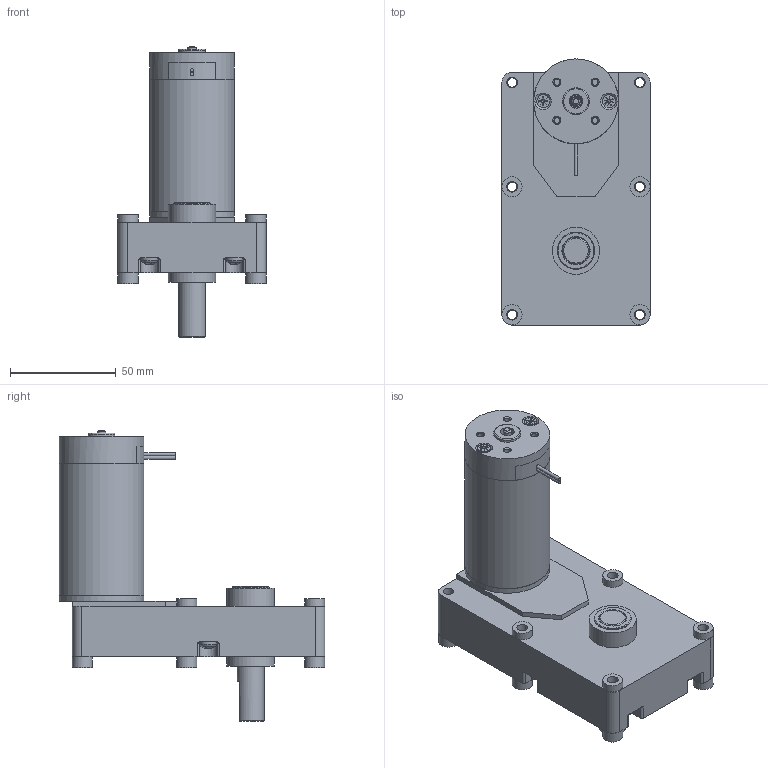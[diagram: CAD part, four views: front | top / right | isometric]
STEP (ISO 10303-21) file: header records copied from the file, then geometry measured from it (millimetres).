
FILE_DESCRIPTION((''),'2;1');
FILE_NAME('D:\업무 관련\2. DC\홈페이지 링크용 도면\3D\SG\SG46BL.stp','2015-04-04T09:19:28',('leejy'),(''),'Autodesk Inventor 2013','Autodesk Inventor 2013','');
FILE_SCHEMA(('AUTOMOTIVE_DESIGN { 1 0 10303 214 1 1 1 1 }'));
Length unit declared in the file: millimetre
Products named in the file (10): SG46BL; SG2 SERIES BOX; RM46ㅁBL; RM4TYPE_FRONT_HOUSING_; RM4TYPE_PIPE_HOUSING_pi40XL62.4; RM46TYPE_SHAFT; AS 1427 Z - 미터 M3.5 x 5; REAR_HOUSING__ASS'Y_LEAD; RM4TYPE_BRUSH_BRAKET_LEAD; RM4TYPE_REAR_HOUSING
Assembly tree (9 placements, depth 3):
  SG46BL
    SG2 SERIES BOX
    RM46ㅁBL
      RM4TYPE_FRONT_HOUSING_
      RM4TYPE_PIPE_HOUSING_pi40XL62.4
      RM46TYPE_SHAFT
      AS 1427 Z - 미터 M3.5 x 5  x2
  REAR_HOUSING__ASS'Y_LEAD
    RM4TYPE_BRUSH_BRAKET_LEAD
    RM4TYPE_REAR_HOUSING
Bounding box: 69.85 x 125.41 x 137.28 mm (x, y, z)
Volume: 126000.1 mm3; surface area: 80077.1 mm2
Topology: 10 solids, 10 shells, 529 faces, 1374 edges, 885 vertices
Faces by surface type: plane 207, cylinder 129, cone 127, torus 60, sphere 6
Full cylindrical faces by diameter (mm): 1.6 x2, 2.7 x4, 2.8 x4, 3.132 x2, 3.5 x2, 3.571 x6, 3.7 x2, 3.969 x1, 4 x7, 4.3 x6, 4.4 x6, 4.45 x1, 5 x1, 5.05 x6, 6 x1, 6.1 x2, 6.5 x1, 6.65 x1, 9.4 x1, 9.5 x9, 12.7 x5, 17.5 x4, 20.3 x1, 22.3 x2, 36.5 x1, 40 x3
Entity records: 15198 total; most frequent: CARTESIAN_POINT 3822, DIRECTION 2303, ORIENTED_EDGE 2126, EDGE_CURVE 1063, AXIS2_PLACEMENT_3D 986, VERTEX_POINT 755, EDGE_LOOP 702, FACE_OUTER_BOUND 488
